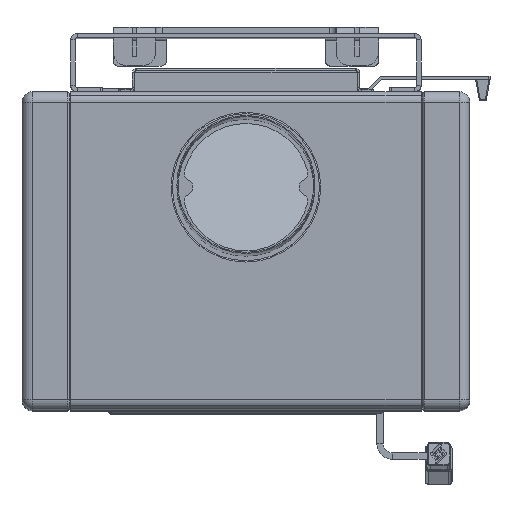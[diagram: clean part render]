
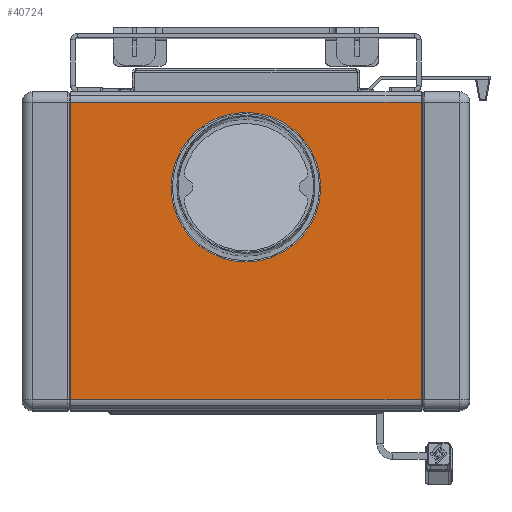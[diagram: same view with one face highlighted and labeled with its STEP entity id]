
A CAD part, top view. The second image highlights one B-rep face of the part: STEP entity #40724.
In plain terms, the highlighted planar face has unit normal (0, 0, 1) as drawn and (0, 1, 0) by its records, which use the part's own axes.
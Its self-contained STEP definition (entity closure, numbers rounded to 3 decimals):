
#1044 = DIRECTION ( 'NONE',  ( -1., 0., 0. ) ) ;
#1473 = LINE ( 'NONE', #42739, #15282 ) ;
#2057 = VERTEX_POINT ( 'NONE', #30345 ) ;
#3703 = VERTEX_POINT ( 'NONE', #41735 ) ;
#9022 = VECTOR ( 'NONE', #29962, 1000. ) ;
#10476 = EDGE_CURVE ( 'NONE', #2057, #45100, #13139, .T. ) ;
#10906 = PLANE ( 'NONE',  #17804 ) ;
#11615 = ORIENTED_EDGE ( 'NONE', *, *, #10476, .F. ) ;
#11749 = CARTESIAN_POINT ( 'NONE',  ( 0., 800., 90. ) ) ;
#12319 = CARTESIAN_POINT ( 'NONE',  ( -165., 800., 10. ) ) ;
#12481 = VERTEX_POINT ( 'NONE', #16033 ) ;
#13139 = LINE ( 'NONE', #33390, #38531 ) ;
#14064 = DIRECTION ( 'NONE',  ( 0., 0., 1. ) ) ;
#14468 = CARTESIAN_POINT ( 'NONE',  ( 165., 800., 10. ) ) ;
#15282 = VECTOR ( 'NONE', #35655, 1000. ) ;
#15299 = DIRECTION ( 'NONE',  ( 0., 0., 1. ) ) ;
#16033 = CARTESIAN_POINT ( 'NONE',  ( 0., 800., 19.5 ) ) ;
#17804 = AXIS2_PLACEMENT_3D ( 'NONE', #14468, #47683, #40265 ) ;
#18572 = CIRCLE ( 'NONE', #21489, 70.5 ) ;
#19006 = ORIENTED_EDGE ( 'NONE', *, *, #31463, .F. ) ;
#19627 = DIRECTION ( 'NONE',  ( -1., 0., 0. ) ) ;
#20945 = DIRECTION ( 'NONE',  ( 0., 1., 0. ) ) ;
#21489 = AXIS2_PLACEMENT_3D ( 'NONE', #11749, #26197, #15299 ) ;
#21619 = LINE ( 'NONE', #22720, #40678 ) ;
#22228 = CARTESIAN_POINT ( 'NONE',  ( -165., 800., 10. ) ) ;
#22594 = EDGE_CURVE ( 'NONE', #12481, #47237, #23067, .T. ) ;
#22720 = CARTESIAN_POINT ( 'NONE',  ( 165., 800., 10. ) ) ;
#23067 = CIRCLE ( 'NONE', #42880, 70.5 ) ;
#23431 = EDGE_LOOP ( 'NONE', ( #19006, #23529 ) ) ;
#23529 = ORIENTED_EDGE ( 'NONE', *, *, #22594, .F. ) ;
#23804 = ORIENTED_EDGE ( 'NONE', *, *, #46501, .T. ) ;
#25910 = EDGE_CURVE ( 'NONE', #3703, #2057, #1473, .T. ) ;
#26197 = DIRECTION ( 'NONE',  ( 0., 1., 0. ) ) ;
#27145 = FACE_BOUND ( 'NONE', #23431, .T. ) ;
#29962 = DIRECTION ( 'NONE',  ( 0., 0., 1. ) ) ;
#30345 = CARTESIAN_POINT ( 'NONE',  ( 165., 800., 290. ) ) ;
#31463 = EDGE_CURVE ( 'NONE', #47237, #12481, #18572, .T. ) ;
#31810 = CARTESIAN_POINT ( 'NONE',  ( -165., 800., 290. ) ) ;
#31887 = EDGE_LOOP ( 'NONE', ( #23804, #11615, #46381, #32809 ) ) ;
#31939 = CARTESIAN_POINT ( 'NONE',  ( 0., 800., 90. ) ) ;
#32809 = ORIENTED_EDGE ( 'NONE', *, *, #42104, .T. ) ;
#33390 = CARTESIAN_POINT ( 'NONE',  ( 165., 800., 290. ) ) ;
#35655 = DIRECTION ( 'NONE',  ( 0., 0., 1. ) ) ;
#36456 = FACE_OUTER_BOUND ( 'NONE', #31887, .T. ) ;
#37733 = CARTESIAN_POINT ( 'NONE',  ( 0., 800., 160.5 ) ) ;
#38468 = LINE ( 'NONE', #22228, #9022 ) ;
#38531 = VECTOR ( 'NONE', #19627, 1000. ) ;
#38553 = VERTEX_POINT ( 'NONE', #12319 ) ;
#40265 = DIRECTION ( 'NONE',  ( 0., 0., -1. ) ) ;
#40678 = VECTOR ( 'NONE', #1044, 1000. ) ;
#40724 = ADVANCED_FACE ( 'NONE', ( #27145, #36456 ), #10906, .F. ) ;
#41735 = CARTESIAN_POINT ( 'NONE',  ( 165., 800., 10. ) ) ;
#42104 = EDGE_CURVE ( 'NONE', #3703, #38553, #21619, .T. ) ;
#42739 = CARTESIAN_POINT ( 'NONE',  ( 165., 800., 10. ) ) ;
#42880 = AXIS2_PLACEMENT_3D ( 'NONE', #31939, #20945, #14064 ) ;
#45100 = VERTEX_POINT ( 'NONE', #31810 ) ;
#46381 = ORIENTED_EDGE ( 'NONE', *, *, #25910, .F. ) ;
#46501 = EDGE_CURVE ( 'NONE', #38553, #45100, #38468, .T. ) ;
#47237 = VERTEX_POINT ( 'NONE', #37733 ) ;
#47683 = DIRECTION ( 'NONE',  ( 0., -1., 0. ) ) ;
